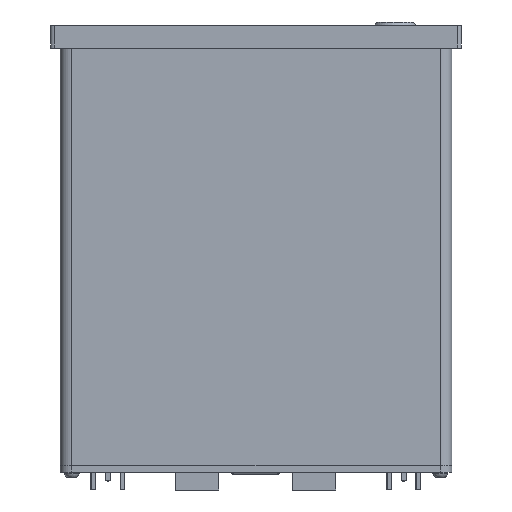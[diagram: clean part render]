
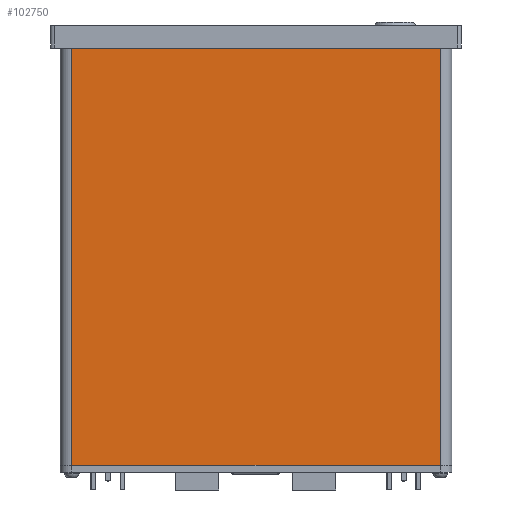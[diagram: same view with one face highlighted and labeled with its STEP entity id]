
A CAD part, front view. The second image highlights one B-rep face of the part: STEP entity #102750.
In plain terms, the highlighted planar face has unit normal (0, -1, 0).
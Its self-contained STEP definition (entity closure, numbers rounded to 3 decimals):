
#11641=FACE_OUTER_BOUND('',#17445,.T.);
#17445=EDGE_LOOP('',(#81532,#81533,#81534,#81535));
#26926=LINE('',#228617,#37067);
#26940=LINE('',#228661,#37081);
#26941=LINE('',#228662,#37082);
#26942=LINE('',#228663,#37083);
#37067=VECTOR('',#120557,10.);
#37081=VECTOR('',#120603,10.);
#37082=VECTOR('',#120604,10.);
#37083=VECTOR('',#120605,10.);
#45887=VERTEX_POINT('',#228615);
#45888=VERTEX_POINT('',#228616);
#45901=VERTEX_POINT('',#228659);
#45902=VERTEX_POINT('',#228660);
#58616=EDGE_CURVE('',#45887,#45888,#26926,.T.);
#58637=EDGE_CURVE('',#45901,#45902,#26940,.T.);
#58638=EDGE_CURVE('',#45902,#45888,#26941,.T.);
#58639=EDGE_CURVE('',#45901,#45887,#26942,.T.);
#81532=ORIENTED_EDGE('',*,*,#58637,.T.);
#81533=ORIENTED_EDGE('',*,*,#58638,.T.);
#81534=ORIENTED_EDGE('',*,*,#58616,.F.);
#81535=ORIENTED_EDGE('',*,*,#58639,.F.);
#99074=PLANE('',#108252);
#102750=ADVANCED_FACE('',(#11641),#99074,.T.);
#108252=AXIS2_PLACEMENT_3D('',#228658,#120601,#120602);
#120557=DIRECTION('',(1.,0.,0.));
#120601=DIRECTION('center_axis',(0.,-1.,0.));
#120602=DIRECTION('ref_axis',(1.,0.,0.));
#120603=DIRECTION('',(1.,0.,0.));
#120604=DIRECTION('',(0.,0.,1.));
#120605=DIRECTION('',(0.,0.,1.));
#228615=CARTESIAN_POINT('',(-43.05,-45.75,97.5));
#228616=CARTESIAN_POINT('',(43.05,-45.75,97.5));
#228617=CARTESIAN_POINT('',(-43.05,-45.75,97.5));
#228658=CARTESIAN_POINT('Origin',(-43.05,-45.75,0.));
#228659=CARTESIAN_POINT('',(-43.05,-45.75,0.));
#228660=CARTESIAN_POINT('',(43.05,-45.75,0.));
#228661=CARTESIAN_POINT('',(-43.05,-45.75,0.));
#228662=CARTESIAN_POINT('',(43.05,-45.75,0.));
#228663=CARTESIAN_POINT('',(-43.05,-45.75,0.));
